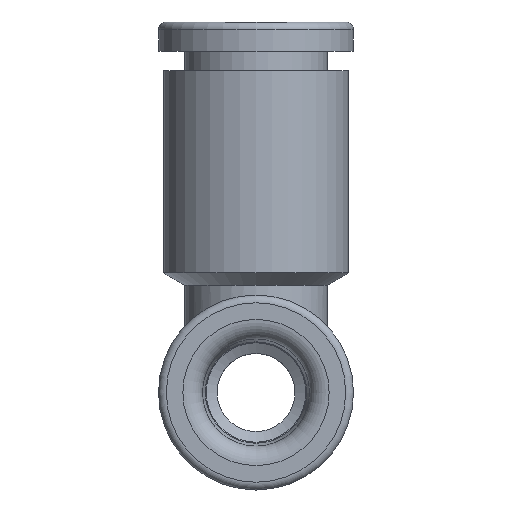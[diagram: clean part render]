
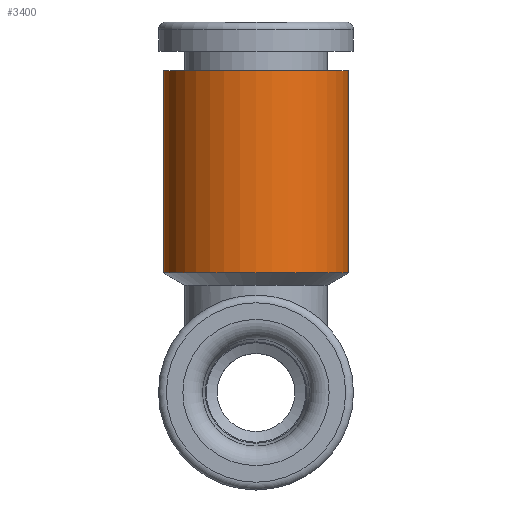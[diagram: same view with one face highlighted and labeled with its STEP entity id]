
A CAD part, left-side view. The second image highlights one B-rep face of the part: STEP entity #3400.
In plain terms, the highlighted cylindrical face has radius 4.75 mm (diameter 9.5 mm), a full revolution.
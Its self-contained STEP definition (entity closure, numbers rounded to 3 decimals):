
#3400=ADVANCED_FACE('', (#3410,#3420), #3430, .T.);
#9510=AXIS2_PLACEMENT_3D('Ax2Pl3d', #9520, #9530, #9540);
#10350=AXIS2_PLACEMENT_3D('Ax2Pl3d', #10360, #10370, #10380);
#10390=AXIS2_PLACEMENT_3D('Ax2Pl3d', #10400, #10410, #10420);
#9520=CARTESIAN_POINT('HicPkt', (25.335,11.977,
25.759));
#11270=CARTESIAN_POINT('', (20.585,11.977,25.759));
#10360=CARTESIAN_POINT('HicPkt', (25.335,11.977,
15.394));
#10400=CARTESIAN_POINT('HicPkt', (25.335,11.977,
15.394));
#11380=CARTESIAN_POINT('', (20.585,11.977,15.394))
;
#12100=CIRCLE('Circle', #9510, 4.75);
#12190=CIRCLE('Circle', #10390, 4.75);
#3430=CYLINDRICAL_SURFACE('Zyl', #10350, 4.75);
#9530=DIRECTION('Axis', (0.,0.,-1.));
#9540=DIRECTION('RefDirection', (-1.,-0.,0.));
#10370=DIRECTION('Axis', (0.,0.,1.));
#10380=DIRECTION('RefDirection', (1.,0.,-0.));
#10410=DIRECTION('Axis', (0.,0.,-1.));
#10420=DIRECTION('RefDirection', (-1.,-0.,0.));
#16430=EDGE_CURVE('', #16440, #16440, #12100, .T.);
#16670=EDGE_CURVE('', #16680, #16680, #12190, .T.);
#19970=EDGE_LOOP('Edge_loop', (#19980));
#19990=EDGE_LOOP('Edge_loop', (#20000));
#3420=FACE_BOUND('', #19990, .T.);
#3410=FACE_OUTER_BOUND('Face_outer_bound', #19970, .T.);
#19980=ORIENTED_EDGE('', *, *, #16430, .T.);
#20000=ORIENTED_EDGE('', *, *, #16670, .F.);
#16440=VERTEX_POINT('', #11270);
#16680=VERTEX_POINT('', #11380);
